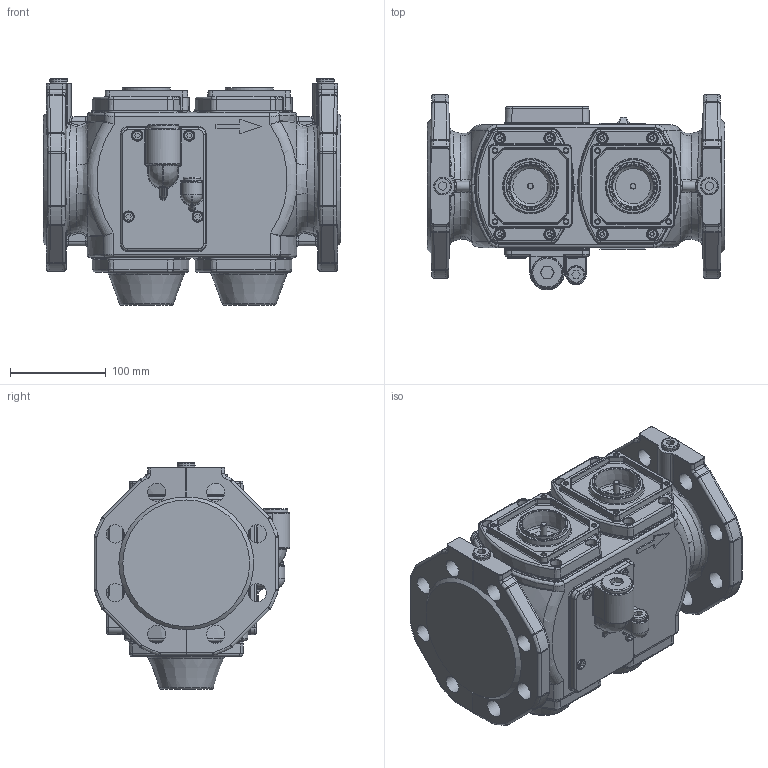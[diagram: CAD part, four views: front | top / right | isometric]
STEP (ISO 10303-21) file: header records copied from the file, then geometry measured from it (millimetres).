
FILE_DESCRIPTION(/* description */ (''),/* implementation_level */ '2;1');
FILE_NAME(/* name */ 'A5W00027706_02.stp',/* time_stamp */ '2018-06-27T11:56:32+02:00',/* author */ (''),/* organization */ (''),/* preprocessor_version */ 'ST-DEVELOPER v16',/* originating_system */ 'SIEMENS PLM Software NX 10.0',/* authorisation */ '');
FILE_SCHEMA (('AUTOMOTIVE_DESIGN { 1 0 10303 214 3 1 1 1 }'));
Products named in the file (1): Gant0728F15Eywn7
Bounding box: 310 x 204 x 236.5 mm (x, y, z)
Volume: 7037342.7 mm3; surface area: 370352.5 mm2
Topology: 1 solids, 5 shells, 2566 faces, 6284 edges, 3847 vertices
Faces by surface type: plane 913, cylinder 673, bspline 461, torus 218, cone 199, extrusion 60, sphere 42
Full cylindrical faces by diameter (mm): 5.188 x2, 5.3 x6, 5.795 x4, 6 x2, 10 x24, 10.5 x6, 11 x6, 13.5 x3, 18 x3, 18.5 x3, 19 x16, 27 x1, 32 x1, 32.5 x1
Entity records: 81486 total; most frequent: CARTESIAN_POINT 25005, ORIENTED_EDGE 11570, DIRECTION 11566, EDGE_CURVE 5785, AXIS2_PLACEMENT_3D 4492, VERTEX_POINT 3724, EDGE_LOOP 3101, VECTOR 2582
